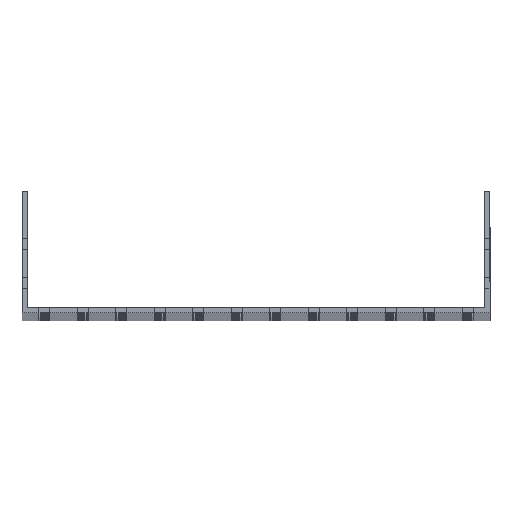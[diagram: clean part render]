
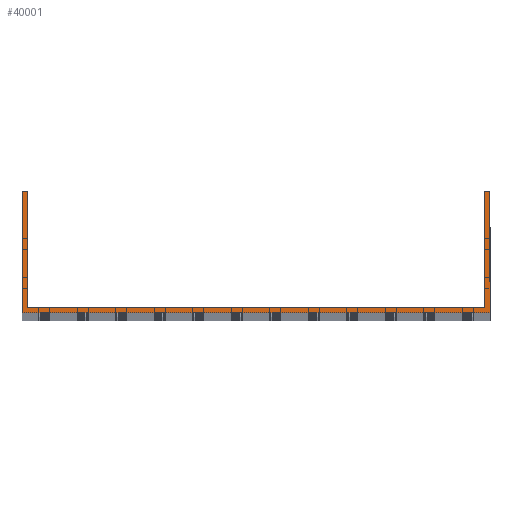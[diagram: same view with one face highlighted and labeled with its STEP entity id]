
A CAD part, top view. The second image highlights one B-rep face of the part: STEP entity #40001.
In plain terms, the highlighted planar face has unit normal (0, 0, 1).
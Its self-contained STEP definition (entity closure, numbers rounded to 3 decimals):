
#959 = CARTESIAN_POINT ( 'NONE',  ( -152., 0., 1500. ) ) ;
#1037 = CARTESIAN_POINT ( 'NONE',  ( -148.5, 3.5, 1500. ) ) ;
#1929 = DIRECTION ( 'NONE',  ( 1., 0., 0. ) ) ;
#4045 = VERTEX_POINT ( 'NONE', #1037 ) ;
#6223 = DIRECTION ( 'NONE',  ( 0., -1., 0. ) ) ;
#11118 = LINE ( 'NONE', #134780, #139602 ) ;
#15792 = CARTESIAN_POINT ( 'NONE',  ( -148.5, 79., 1500. ) ) ;
#17242 = VERTEX_POINT ( 'NONE', #959 ) ;
#17531 = ORIENTED_EDGE ( 'NONE', *, *, #155944, .T. ) ;
#18358 = VERTEX_POINT ( 'NONE', #152877 ) ;
#18712 = CARTESIAN_POINT ( 'NONE',  ( -152., 79., 1500. ) ) ;
#19762 = EDGE_CURVE ( 'NONE', #54079, #126231, #46009, .T. ) ;
#21609 = CARTESIAN_POINT ( 'NONE',  ( 152., 0., 1500. ) ) ;
#24751 = VERTEX_POINT ( 'NONE', #45700 ) ;
#26921 = DIRECTION ( 'NONE',  ( 1., 0., 0. ) ) ;
#30475 = ORIENTED_EDGE ( 'NONE', *, *, #154297, .T. ) ;
#31579 = LINE ( 'NONE', #59241, #145282 ) ;
#31799 = DIRECTION ( 'NONE',  ( -1., 0., 0. ) ) ;
#37263 = DIRECTION ( 'NONE',  ( 1., 0., 0. ) ) ;
#40001 = ADVANCED_FACE ( 'NONE', ( #134753 ), #147417, .T. ) ;
#41126 = DIRECTION ( 'NONE',  ( 0., 0., 1. ) ) ;
#43161 = VECTOR ( 'NONE', #116236, 1000. ) ;
#45700 = CARTESIAN_POINT ( 'NONE',  ( -148.5, 79., 1500. ) ) ;
#46009 = LINE ( 'NONE', #141978, #69871 ) ;
#50375 = VECTOR ( 'NONE', #1929, 1000. ) ;
#51299 = EDGE_CURVE ( 'NONE', #24751, #18358, #87746, .T. ) ;
#51618 = EDGE_CURVE ( 'NONE', #4045, #154788, #154224, .T. ) ;
#53007 = ORIENTED_EDGE ( 'NONE', *, *, #19762, .T. ) ;
#54079 = VERTEX_POINT ( 'NONE', #77306 ) ;
#55947 = ORIENTED_EDGE ( 'NONE', *, *, #51618, .F. ) ;
#58384 = EDGE_CURVE ( 'NONE', #24751, #4045, #101406, .T. ) ;
#59241 = CARTESIAN_POINT ( 'NONE',  ( 148.5, 79., 1500. ) ) ;
#62977 = CARTESIAN_POINT ( 'NONE',  ( 152., 79., 1500. ) ) ;
#69871 = VECTOR ( 'NONE', #31799, 1000. ) ;
#71144 = DIRECTION ( 'NONE',  ( 0., 1., 0. ) ) ;
#73216 = ORIENTED_EDGE ( 'NONE', *, *, #108010, .F. ) ;
#74058 = ORIENTED_EDGE ( 'NONE', *, *, #58384, .F. ) ;
#77306 = CARTESIAN_POINT ( 'NONE',  ( 152., 79., 1500. ) ) ;
#79759 = LINE ( 'NONE', #18712, #43161 ) ;
#81104 = ORIENTED_EDGE ( 'NONE', *, *, #51299, .T. ) ;
#87145 = VECTOR ( 'NONE', #6223, 1000. ) ;
#87177 = CARTESIAN_POINT ( 'NONE',  ( 0., 0., 1500. ) ) ;
#87746 = LINE ( 'NONE', #136121, #103470 ) ;
#89985 = EDGE_LOOP ( 'NONE', ( #74058, #81104, #95853, #30475, #17531, #53007, #73216, #55947 ) ) ;
#95853 = ORIENTED_EDGE ( 'NONE', *, *, #153132, .T. ) ;
#101406 = LINE ( 'NONE', #15792, #87145 ) ;
#103470 = VECTOR ( 'NONE', #136888, 1000. ) ;
#104867 = CARTESIAN_POINT ( 'NONE',  ( 148.5, 3.5, 1500. ) ) ;
#108010 = EDGE_CURVE ( 'NONE', #154788, #126231, #31579, .T. ) ;
#111352 = DIRECTION ( 'NONE',  ( 0., 1., 0. ) ) ;
#116236 = DIRECTION ( 'NONE',  ( 0., -1., 0. ) ) ;
#121585 = CARTESIAN_POINT ( 'NONE',  ( 148.5, 79., 1500. ) ) ;
#121681 = AXIS2_PLACEMENT_3D ( 'NONE', #87177, #41126, #26921 ) ;
#123256 = CARTESIAN_POINT ( 'NONE',  ( -152., 3.5, 1500. ) ) ;
#125575 = LINE ( 'NONE', #62977, #132351 ) ;
#126231 = VERTEX_POINT ( 'NONE', #121585 ) ;
#131259 = VERTEX_POINT ( 'NONE', #21609 ) ;
#132351 = VECTOR ( 'NONE', #111352, 1000. ) ;
#134753 = FACE_OUTER_BOUND ( 'NONE', #89985, .T. ) ;
#134780 = CARTESIAN_POINT ( 'NONE',  ( -152., 0., 1500. ) ) ;
#136121 = CARTESIAN_POINT ( 'NONE',  ( -152., 79., 1500. ) ) ;
#136888 = DIRECTION ( 'NONE',  ( -1., 0., 0. ) ) ;
#139602 = VECTOR ( 'NONE', #37263, 1000. ) ;
#141978 = CARTESIAN_POINT ( 'NONE',  ( -152., 79., 1500. ) ) ;
#145282 = VECTOR ( 'NONE', #71144, 1000. ) ;
#147417 = PLANE ( 'NONE',  #121681 ) ;
#152877 = CARTESIAN_POINT ( 'NONE',  ( -152., 79., 1500. ) ) ;
#153132 = EDGE_CURVE ( 'NONE', #18358, #17242, #79759, .T. ) ;
#154224 = LINE ( 'NONE', #123256, #50375 ) ;
#154297 = EDGE_CURVE ( 'NONE', #17242, #131259, #11118, .T. ) ;
#154788 = VERTEX_POINT ( 'NONE', #104867 ) ;
#155944 = EDGE_CURVE ( 'NONE', #131259, #54079, #125575, .T. ) ;
